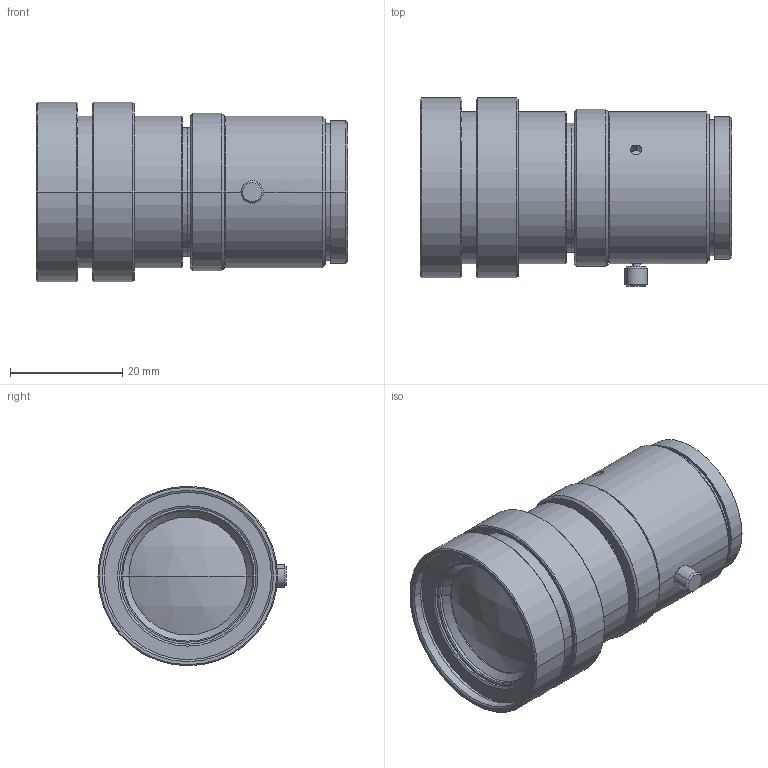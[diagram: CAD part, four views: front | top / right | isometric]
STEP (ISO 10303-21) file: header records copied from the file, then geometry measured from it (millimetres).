
FILE_DESCRIPTION (( 'STEP AP214' ), '1' );
FILE_NAME ('M0880-MPW2-R.STEP', '2021-04-19T23:25:11', ( '' ), ( '' ), 'SwSTEP 2.0', 'SolidWorks 2021', '' );
FILE_SCHEMA (( 'AUTOMOTIVE_DESIGN' ));
Length unit declared in the file: millimetre
Products named in the file (4): ロックビス; M0880-MPW2-R_MechanicalLimit; M0880-MPW2-R; M0880-MPW2-R_Infinity
Assembly tree (3 placements, depth 2):
  M0880-MPW2-R
    M0880-MPW2-R_Infinity
    M0880-MPW2-R_MechanicalLimit
    ロックビス
Bounding box: 55.46 x 33.5 x 32 mm (x, y, z)
Volume: 48373.3 mm3; surface area: 16581.4 mm2
Topology: 3 solids, 3 shells, 254 faces, 504 edges, 302 vertices
Faces by surface type: cylinder 102, cone 94, plane 50, sphere 8
Entity records: 9484 total; most frequent: DIRECTION 1306, CARTESIAN_POINT 1258, ORIENTED_EDGE 1008, AXIS2_PLACEMENT_3D 554, EDGE_CURVE 504, VERTEX_POINT 302, EDGE_LOOP 300, CIRCLE 294
